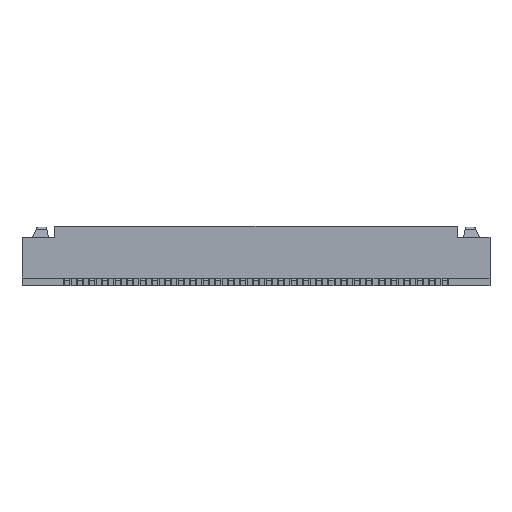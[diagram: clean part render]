
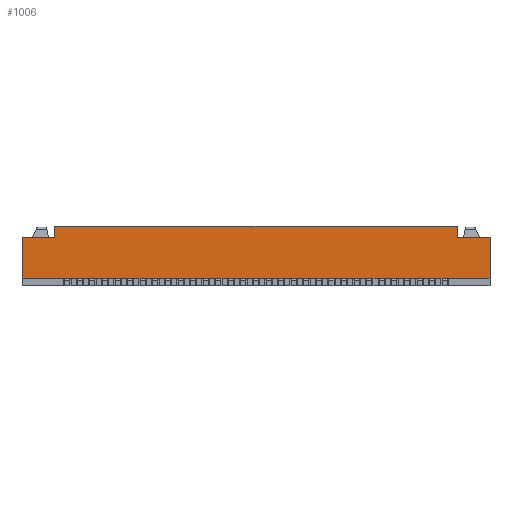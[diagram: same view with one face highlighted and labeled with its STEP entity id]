
A CAD part, front view. The second image highlights one B-rep face of the part: STEP entity #1006.
In plain terms, the highlighted planar face has unit normal (0, -1, 0).
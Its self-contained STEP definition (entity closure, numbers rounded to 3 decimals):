
#399=CARTESIAN_POINT('Vertex',(-8.,-2.4,1.92)) ;
#402=CARTESIAN_POINT('Line Origine',(-8.,-2.4,2.135)) ;
#406=CARTESIAN_POINT('Vertex',(-8.,-2.4,2.35)) ;
#944=CARTESIAN_POINT('Axis2P3D Location',(0.,-2.4,0.3)) ;
#949=CARTESIAN_POINT('Line Origine',(-8.65,-2.4,1.92)) ;
#953=CARTESIAN_POINT('Vertex',(-9.3,-2.4,1.92)) ;
#956=CARTESIAN_POINT('Line Origine',(-9.3,-2.4,1.11)) ;
#960=CARTESIAN_POINT('Vertex',(-9.3,-2.4,0.3)) ;
#963=CARTESIAN_POINT('Line Origine',(0.,-2.4,0.3)) ;
#967=CARTESIAN_POINT('Vertex',(9.3,-2.4,0.3)) ;
#970=CARTESIAN_POINT('Line Origine',(9.3,-2.4,1.11)) ;
#974=CARTESIAN_POINT('Vertex',(9.3,-2.4,1.92)) ;
#977=CARTESIAN_POINT('Line Origine',(8.65,-2.4,1.92)) ;
#981=CARTESIAN_POINT('Vertex',(8.,-2.4,1.92)) ;
#984=CARTESIAN_POINT('Line Origine',(8.,-2.4,2.135)) ;
#988=CARTESIAN_POINT('Vertex',(8.,-2.4,2.35)) ;
#991=CARTESIAN_POINT('Line Origine',(0.,-2.4,2.35)) ;
#403=DIRECTION('Vector Direction',(0.,0.,-1.)) ;
#945=DIRECTION('Axis2P3D Direction',(0.,1.,0.)) ;
#946=DIRECTION('Axis2P3D XDirection',(0.,0.,1.)) ;
#950=DIRECTION('Vector Direction',(1.,0.,0.)) ;
#957=DIRECTION('Vector Direction',(0.,0.,1.)) ;
#964=DIRECTION('Vector Direction',(1.,0.,0.)) ;
#971=DIRECTION('Vector Direction',(0.,0.,1.)) ;
#978=DIRECTION('Vector Direction',(-1.,0.,0.)) ;
#985=DIRECTION('Vector Direction',(0.,0.,-1.)) ;
#992=DIRECTION('Vector Direction',(1.,0.,0.)) ;
#947=AXIS2_PLACEMENT_3D('Plane Axis2P3D',#944,#945,#946) ;
#997=ORIENTED_EDGE('',*,*,#408,.T.) ;
#998=ORIENTED_EDGE('',*,*,#955,.F.) ;
#999=ORIENTED_EDGE('',*,*,#962,.T.) ;
#1000=ORIENTED_EDGE('',*,*,#969,.T.) ;
#1001=ORIENTED_EDGE('',*,*,#976,.F.) ;
#1002=ORIENTED_EDGE('',*,*,#983,.T.) ;
#1003=ORIENTED_EDGE('',*,*,#990,.F.) ;
#1004=ORIENTED_EDGE('',*,*,#995,.F.) ;
#404=VECTOR('Line Direction',#403,1.) ;
#951=VECTOR('Line Direction',#950,1.) ;
#958=VECTOR('Line Direction',#957,1.) ;
#965=VECTOR('Line Direction',#964,1.) ;
#972=VECTOR('Line Direction',#971,1.) ;
#979=VECTOR('Line Direction',#978,1.) ;
#986=VECTOR('Line Direction',#985,1.) ;
#993=VECTOR('Line Direction',#992,1.) ;
#1006=ADVANCED_FACE('\X2\96F64EF651E04F554F53\X0\',(#1005),#948,.F.) ;
#408=EDGE_CURVE('',#407,#400,#405,.T.) ;
#955=EDGE_CURVE('',#954,#400,#952,.T.) ;
#962=EDGE_CURVE('',#954,#961,#959,.F.) ;
#969=EDGE_CURVE('',#961,#968,#966,.T.) ;
#976=EDGE_CURVE('',#975,#968,#973,.F.) ;
#983=EDGE_CURVE('',#975,#982,#980,.T.) ;
#990=EDGE_CURVE('',#989,#982,#987,.T.) ;
#995=EDGE_CURVE('',#407,#989,#994,.T.) ;
#996=EDGE_LOOP('',(#997,#998,#999,#1000,#1001,#1002,#1003,#1004)) ;
#1005=FACE_OUTER_BOUND('',#996,.T.) ;
#405=LINE('Line',#402,#404) ;
#952=LINE('Line',#949,#951) ;
#959=LINE('Line',#956,#958) ;
#966=LINE('Line',#963,#965) ;
#973=LINE('Line',#970,#972) ;
#980=LINE('Line',#977,#979) ;
#987=LINE('Line',#984,#986) ;
#994=LINE('Line',#991,#993) ;
#948=PLANE('Plane',#947) ;
#400=VERTEX_POINT('',#399) ;
#407=VERTEX_POINT('',#406) ;
#954=VERTEX_POINT('',#953) ;
#961=VERTEX_POINT('',#960) ;
#968=VERTEX_POINT('',#967) ;
#975=VERTEX_POINT('',#974) ;
#982=VERTEX_POINT('',#981) ;
#989=VERTEX_POINT('',#988) ;
